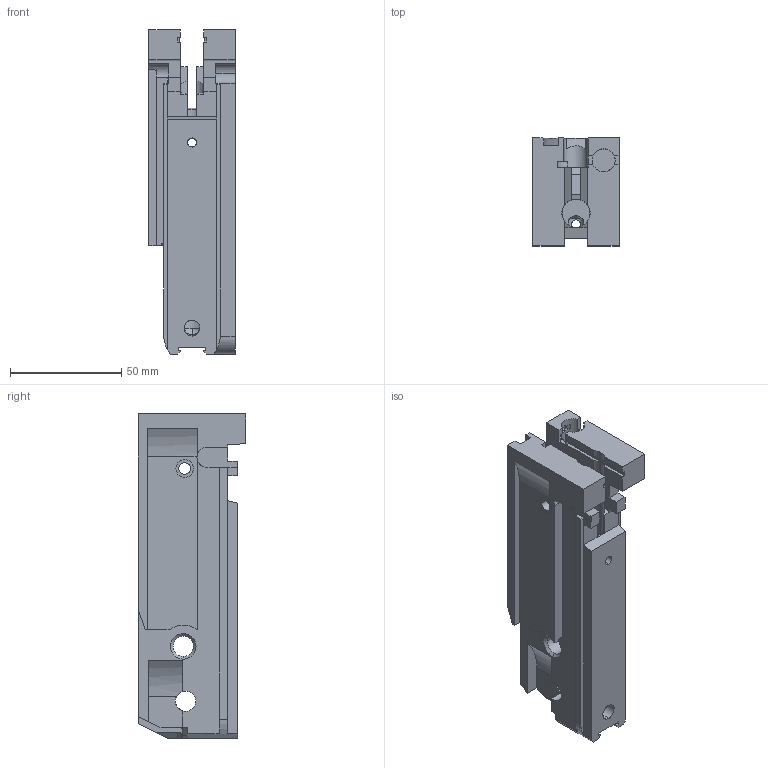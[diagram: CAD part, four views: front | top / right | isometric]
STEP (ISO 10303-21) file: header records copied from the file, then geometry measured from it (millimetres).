
FILE_DESCRIPTION (( 'STEP AP203' ), '1' );
FILE_NAME ('bolt body.STEP', '2015-01-26T14:25:19', ( '' ), ( '' ), 'SwSTEP 2.0', 'SolidWorks 2014', '' );
FILE_SCHEMA (( 'CONFIG_CONTROL_DESIGN' ));
Length unit declared in the file: inch
Products named in the file (1): bolt body
Bounding box: 38.81 x 48.59 x 145.92 mm (x, y, z)
Volume: 145326 mm3; surface area: 43320.4 mm2
Topology: 1 solids, 1 shells, 208 faces, 613 edges, 407 vertices
Faces by surface type: plane 144, cylinder 52, cone 8, bspline 4
Entity records: 7878 total; most frequent: CARTESIAN_POINT 2229, ORIENTED_EDGE 1226, DIRECTION 1097, EDGE_CURVE 613, VECTOR 433, LINE 433, VERTEX_POINT 407, AXIS2_PLACEMENT_3D 332
